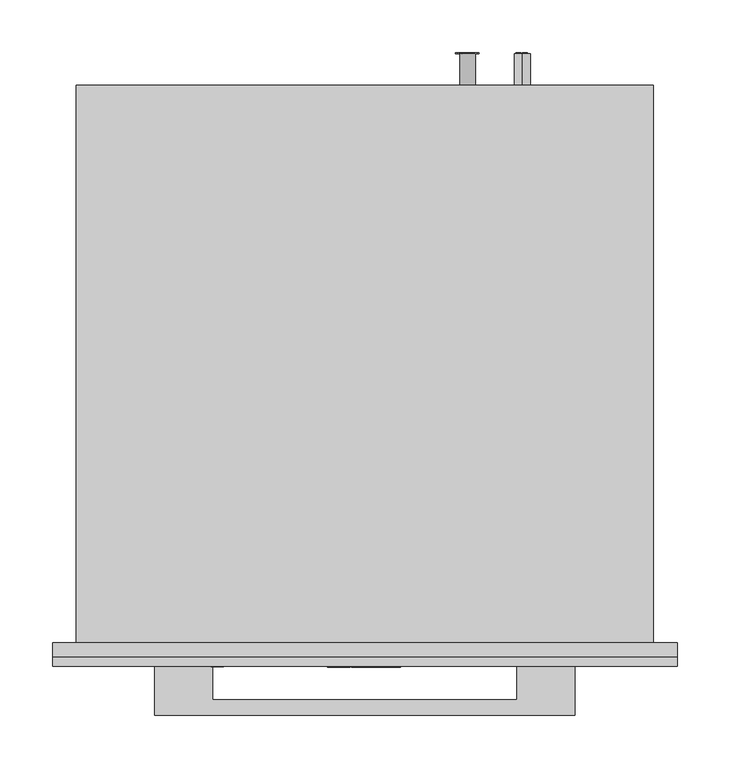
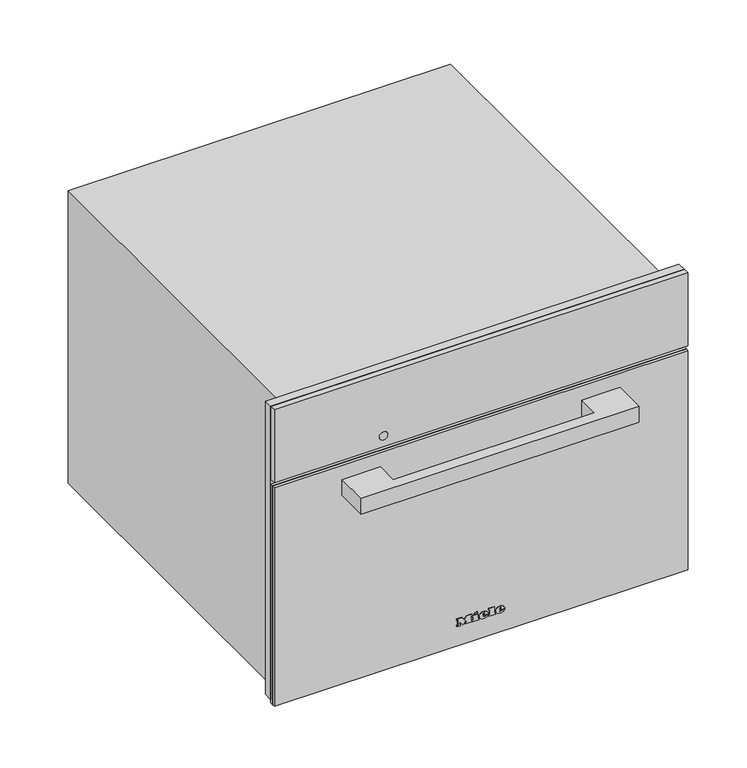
"""IFC4 building model written with IfcOpenShell, lengths in millimetres: proxy geometry, 11100870_F_DGM7645_BRWS : 23764514_F_11100870_DGM7645_BRWS."""

from ifc_helpers import new_model, si_unit, point, frame, frame_2d, origin, place, context, project, spatial, polyline, circle_curve, ellipse_curve, trimmed, segment, composite_curve, outline, extrude, faceted_brep, source, transform, mapped, element, save
from ifc_brep_helpers import plane_surface, cylinder_surface, revolved_surface, extruded_surface, advanced_brep


def specialty_equipment_d4a3625e(model_context):
    return source(origin(), model_context, "Body", "SolidModel", [
        extrude(outline(polyline([(455.0, 297.5), (455.0, -297.5), (9.0, -297.5), (9.0, -272.5), (344.0, -272.5), (344.0, 272.5), (9.0, 272.5), (9.0, 297.5), (455.0, 297.5)])), frame((0.0, -13.0, 0.0), z_axis=(0.0, 1.0, 0.0), x_axis=(0.0, 0.0, 1.0)), (0.0, 0.0, 1.0), 13.0),
        extrude(outline(polyline([(378.0, 95.9217896), (378.0, 97.4267862), (388.0435673, 100.1942402), (388.0435673, 98.9014806), (379.4295103, 96.7797951), (388.0470645, 94.3087512), (388.0470645, 92.4373937), (379.4121052, 89.9191482), (388.0472266, 87.8443938), (388.0472266, 86.5376524), (378.0, 89.2769667), (378.0, 90.6257455), (386.8347238, 93.3884733), (378.0, 95.9217896)])), frame((0.0, 561.0, 0.0), z_axis=(0.0, 1.0, 0.0), x_axis=(0.0, 0.0, 1.0)), (0.0, 0.0, 1.0), 1.0),
        extrude(outline(polyline([(388.0468463, 108.521488), (388.0468463, 107.2566067), (383.129594, 107.2566067), (388.0474898, 102.1074328), (388.0474898, 100.3597489), (383.9313111, 104.6695027), (378.0, 100.1858157), (378.0, 101.7358731), (383.0700777, 105.5685235), (381.4282746, 107.2823622), (378.0, 107.2823622), (378.0, 108.521488), (388.0468463, 108.521488)])), frame((0.0, 561.0, 0.0), z_axis=(0.0, 1.0, 0.0), x_axis=(0.0, 0.0, 1.0)), (0.0, 0.0, 1.0), 1.0),
        advanced_brep(
        [(150.0, 561.0, 410.5), (150.0, 561.0, 395.5), (144.4098301, 561.0, 398.0), (148.5, 561.0, 398.0), (148.5, 561.0, 408.0), (147.4955303, 561.0, 408.0), (147.4955303, 561.0, 399.0), (144.0315043, 561.0, 399.0), (144.0315043, 561.0, 398.4582978), (155.0, 561.0, 398.0), (155.0, 561.0, 408.0), (150.0, 561.0, 408.0), (150.0, 561.0, 407.0), (154.0, 561.0, 407.0), (154.0, 561.0, 403.5), (151.0, 561.0, 403.5), (151.0, 561.0, 402.5), (154.0, 561.0, 402.5), (154.0, 561.0, 399.0), (150.0, 561.0, 399.0), (150.0, 561.0, 398.0), (150.0, 531.0, 395.5), (150.0, 531.0, 410.5), (155.0, 562.0, 408.0), (155.0, 562.0, 398.0), (150.0, 562.0, 398.0), (150.0, 562.0, 399.0), (154.0, 562.0, 399.0), (154.0, 562.0, 402.5), (151.0, 562.0, 402.5), (151.0, 562.0, 403.5), (154.0, 562.0, 403.5), (154.0, 562.0, 407.0), (150.0, 562.0, 407.0), (150.0, 562.0, 408.0), (148.5, 562.0, 398.0), (144.0315043, 562.0, 398.0), (144.0315043, 562.0, 399.0), (147.4955303, 562.0, 399.0), (147.4955303, 562.0, 408.0), (148.5, 562.0, 408.0), (144.0315043, 561.0, 398.0)],
        [
            (0, 1, circle_curve(frame((150.0, 561.0, 403.0), z_axis=(0.0, 1.0, 0.0), x_axis=(0.0, 0.0, 1.0)), 7.5)),
            (1, 2, circle_curve(frame((150.0, 561.0, 403.0), z_axis=(0.0, 1.0, 0.0), x_axis=(0.0, 0.0, 1.0)), 7.5)),
            (2, 3),
            (3, 4),
            (4, 5),
            (5, 6),
            (6, 7),
            (7, 8),
            (8, 0, circle_curve(frame((150.0, 561.0, 403.0), z_axis=(0.0, 1.0, 0.0), x_axis=(0.0, 0.0, 1.0)), 7.5)),
            (9, 10),
            (10, 11),
            (11, 12),
            (12, 13),
            (13, 14),
            (14, 15),
            (15, 16),
            (16, 17),
            (17, 18),
            (18, 19),
            (19, 20),
            (20, 9),
            (21, 22, circle_curve(frame((150.0, 531.0, 403.0), z_axis=(0.0, -1.0, 0.0), x_axis=(0.0, 0.0, 1.0)), 7.5)),
            (22, 21, circle_curve(frame((150.0, 531.0, 403.0), z_axis=(0.0, -1.0, 0.0), x_axis=(0.0, 0.0, 1.0)), 7.5)),
            (0, 22),
            (21, 1),
            (8, 2, circle_curve(frame((150.0, 561.0, 403.0), z_axis=(0.0, -1.0, 0.0), x_axis=(0.0, 0.0, 1.0)), 7.5)),
            (23, 24),
            (24, 25),
            (25, 26),
            (26, 27),
            (27, 28),
            (28, 29),
            (29, 30),
            (30, 31),
            (31, 32),
            (32, 33),
            (33, 34),
            (34, 23),
            (35, 36),
            (36, 37),
            (37, 38),
            (38, 39),
            (39, 40),
            (40, 35),
            (8, 41),
            (41, 2),
            (23, 10),
            (9, 24),
            (20, 25),
            (19, 26),
            (18, 27),
            (17, 28),
            (16, 29),
            (15, 30),
            (14, 31),
            (13, 32),
            (12, 33),
            (11, 34),
            (35, 3),
            (41, 36),
            (7, 37),
            (6, 38),
            (5, 39),
            (4, 40),
        ],
        [
            plane_surface(frame((150.0, 561.0, 410.5), z_axis=(0.0, 1.0, 0.0), x_axis=(1.0, 0.0, 0.0))),
            plane_surface(frame((150.0, 531.0, 410.5), z_axis=(0.0, -1.0, 0.0), x_axis=(-1.0, 0.0, 0.0))),
            cylinder_surface(frame((150.0, 561.0, 403.0), z_axis=(0.0, -1.0, 0.0), x_axis=(0.0, 0.0, 1.0)), 7.5),
            plane_surface(frame((155.0, 562.0, 408.0), z_axis=(0.0, 1.0, 0.0), x_axis=(0.0, 0.0, -1.0))),
            plane_surface(frame((155.0, 561.0, 408.0), z_axis=(0.0, -1.0, 0.0), x_axis=(0.0, 0.0, 1.0))),
            plane_surface(frame((155.0, 562.0, 408.0), z_axis=(1.0, 0.0, 0.0), x_axis=(0.0, -1.0, 0.0))),
            plane_surface(frame((155.0, 562.0, 398.0), z_axis=(0.0, 0.0, -1.0), x_axis=(0.0, -1.0, 0.0))),
            plane_surface(frame((150.0, 562.0, 398.0), z_axis=(-1.0, 0.0, 0.0), x_axis=(0.0, -1.0, 0.0))),
            plane_surface(frame((150.0, 562.0, 399.0), z_axis=(0.0, 0.0, 1.0), x_axis=(0.0, -1.0, 0.0))),
            plane_surface(frame((154.0, 562.0, 399.0), z_axis=(-1.0, 0.0, 0.0), x_axis=(0.0, -1.0, 0.0))),
            plane_surface(frame((154.0, 562.0, 402.5), z_axis=(0.0, 0.0, -1.0), x_axis=(0.0, -1.0, 0.0))),
            plane_surface(frame((151.0, 562.0, 402.5), z_axis=(-1.0, 0.0, 0.0), x_axis=(0.0, -1.0, 0.0))),
            plane_surface(frame((151.0, 562.0, 403.5), z_axis=(0.0, 0.0, 1.0), x_axis=(0.0, -1.0, 0.0))),
            plane_surface(frame((154.0, 562.0, 403.5), z_axis=(-1.0, 0.0, 0.0), x_axis=(0.0, -1.0, 0.0))),
            plane_surface(frame((154.0, 562.0, 407.0), z_axis=(0.0, 0.0, -1.0), x_axis=(0.0, -1.0, 0.0))),
            plane_surface(frame((150.0, 562.0, 407.0), z_axis=(-1.0, 0.0, 0.0), x_axis=(0.0, -1.0, 0.0))),
            plane_surface(frame((150.0, 562.0, 408.0), z_axis=(0.0, 0.0, 1.0), x_axis=(0.0, -1.0, 0.0))),
            plane_surface(frame((148.5, 562.0, 398.0), z_axis=(0.0, 0.0, -1.0), x_axis=(0.0, -1.0, 0.0))),
            plane_surface(frame((144.0315043, 562.0, 398.0), z_axis=(-1.0, 0.0, 0.0), x_axis=(0.0, -1.0, 0.0))),
            plane_surface(frame((144.0315043, 562.0, 399.0), z_axis=(0.0, 0.0, 1.0), x_axis=(0.0, -1.0, 0.0))),
            plane_surface(frame((147.4955303, 562.0, 399.0), z_axis=(-1.0, 0.0, 0.0), x_axis=(0.0, -1.0, 0.0))),
            plane_surface(frame((147.4955303, 562.0, 408.0), z_axis=(0.0, 0.0, 1.0), x_axis=(0.0, -1.0, 0.0))),
            plane_surface(frame((148.5, 562.0, 408.0), z_axis=(1.0, 0.0, 0.0), x_axis=(0.0, -1.0, 0.0))),
        ],
        [
            (0, [[1, 2, 3, 4, 5, 6, 7, 8, 9], [10, 11, 12, 13, 14, 15, 16, 17, 18, 19, 20, 21]]),
            (1, [[22, 23]]),
            (2, [[-1, 24, -22, 25]]),
            (2, [[-23, -24, -9, 26, -2, -25]]),
            (3, [[27, 28, 29, 30, 31, 32, 33, 34, 35, 36, 37, 38]]),
            (3, [[39, 40, 41, 42, 43, 44]]),
            (4, [[45, 46, -26]]),
            (5, [[-27, 47, -10, 48]]),
            (6, [[-28, -48, -21, 49]]),
            (7, [[-29, -49, -20, 50]]),
            (8, [[-30, -50, -19, 51]]),
            (9, [[-31, -51, -18, 52]]),
            (10, [[-32, -52, -17, 53]]),
            (11, [[-33, -53, -16, 54]]),
            (12, [[-34, -54, -15, 55]]),
            (13, [[-35, -55, -14, 56]]),
            (14, [[-36, -56, -13, 57]]),
            (15, [[-37, -57, -12, 58]]),
            (16, [[-38, -58, -11, -47]]),
            (17, [[-39, 59, -3, -46, 60]]),
            (18, [[-40, -60, -45, -8, 61]]),
            (19, [[-41, -61, -7, 62]]),
            (20, [[-42, -62, -6, 63]]),
            (21, [[-43, -63, -5, 64]]),
            (22, [[-44, -64, -4, -59]]),
        ],
    ),
        extrude(outline(composite_curve([segment(trimmed(circle_curve(frame_2d((383.0, 98.0)), 7.5), [point((383.0, 105.5))], [point((383.0, 90.5))], False, "CARTESIAN"), True, "CONTINUOUS"), segment(trimmed(circle_curve(frame_2d((383.0, 98.0)), 7.5), [point((383.0, 90.5))], [point((383.0, 105.5))], False, "CARTESIAN"), True, "CONTINUOUS")], self_intersect=False)), frame((0.0, 531.0, 0.0), z_axis=(0.0, 1.0, 0.0), x_axis=(0.0, 0.0, 1.0)), (0.0, 0.0, 1.0), 30.0),
        faceted_brep([(275.0, 531.0, 445.0), (275.0, 531.0, 0.0), (-275.0, 531.0, 0.0), (-275.0, 531.0, 445.0), (275.0, 0.0, 445.0), (-275.0, 0.0, 445.0), (-275.0, 0.0, 0.0), (275.0, 0.0, 0.0), (-272.5, 0.0, 344.0), (272.5, 0.0, 344.0), (272.5, 0.0, 8.0), (-272.5, 0.0, 8.0), (272.5, 12.0, 344.0), (-272.5, 12.0, 344.0), (-272.5, 12.0, 8.0), (272.5, 12.0, 8.0), (161.0, 12.0, 286.0), (161.0, 12.0, 58.0), (-220.0, 12.0, 58.0), (-220.0, 12.0, 286.0), (161.0, 419.0, 286.0), (-220.0, 419.0, 286.0), (-220.0, 419.0, 58.0), (161.0, 419.0, 58.0)], [[[0, 1, 2, 3]], [[4, 5, 6, 7], [8, 9, 10, 11]], [[0, 3, 5, 4]], [[3, 2, 6, 5]], [[2, 1, 7, 6]], [[1, 0, 4, 7]], [[12, 13, 14, 15], [16, 17, 18, 19]], [[13, 12, 9, 8]], [[14, 13, 8, 11]], [[15, 14, 11, 10]], [[12, 15, 10, 9]], [[20, 21, 22, 23]], [[20, 23, 17, 16]], [[23, 22, 18, 17]], [[22, 21, 19, 18]], [[21, 20, 16, 19]]]),
        advanced_brep(
        [(26.2998, -23.0, 36.7018), (26.2998, -23.0, 37.8532), (33.9264, -23.0, 37.8532), (20.6568, -23.0, 37.8532), (23.7918, -23.0, 34.0), (33.7326, -23.0, 36.7018), (30.2898, -23.0, 36.7018), (27.5766, -23.0, 35.425), (26.2998, -23.0, 39.3124), (26.2998, -23.0, 40.555), (28.2492, -23.0, 40.555), (28.2492, -23.0, 39.3124), (26.2998, -22.0, 36.7018), (27.5766, -22.0, 35.425), (30.2898, -22.0, 36.7018), (33.7326, -22.0, 36.7018), (23.7918, -22.0, 34.0), (20.6568, -22.0, 37.8532), (33.9264, -22.0, 37.8532), (26.2998, -22.0, 37.8532), (26.2998, -22.0, 39.3124), (28.2492, -22.0, 39.3124), (28.2492, -22.0, 40.555), (26.2998, -22.0, 40.555)],
        [
            (0, 1),
            (1, 2),
            (2, 3, ellipse_curve(frame((27.2916, -23.0, 37.8532), z_axis=(0.0, -1.0, 0.0), x_axis=(-1.0, 0.0, 0.0)), 6.6348, 5.4834)),
            (3, 4, circle_curve(frame((25.0686622, -23.0, 38.2408), z_axis=(0.0, -1.0, 0.0), x_axis=(0.0, 0.0, -1.0)), 4.4288556)),
            (4, 5, circle_curve(frame((27.1587808, -23.0, 41.2504), z_axis=(0.0, -1.0, 0.0), x_axis=(0.0, 0.0, -1.0)), 7.9940516)),
            (5, 6),
            (6, 7, circle_curve(frame((28.1338588, -23.0, 37.762), z_axis=(0.0, 1.0, 0.0), x_axis=(0.0, 0.0, -1.0)), 2.4025208)),
            (7, 0, circle_curve(frame((27.5766, -23.0, 36.7018), z_axis=(0.0, 1.0, 0.0), x_axis=(0.0, 0.0, -1.0)), 1.2768)),
            (8, 9),
            (9, 10, circle_curve(frame((27.2745, -23.0, 40.555), z_axis=(0.0, 1.0, 0.0), x_axis=(0.0, 0.0, -1.0)), 0.9747)),
            (10, 11),
            (11, 8),
            (12, 13, circle_curve(frame((27.5766, -22.0, 36.7018), z_axis=(0.0, -1.0, 0.0), x_axis=(0.0, 0.0, -1.0)), 1.2768)),
            (13, 14, circle_curve(frame((28.1338588, -22.0, 37.762), z_axis=(0.0, -1.0, 0.0), x_axis=(0.0, 0.0, -1.0)), 2.4025208)),
            (14, 15),
            (15, 16, circle_curve(frame((27.1587808, -22.0, 41.2504), z_axis=(0.0, 1.0, 0.0), x_axis=(0.0, 0.0, -1.0)), 7.9940516)),
            (16, 17, circle_curve(frame((25.0686622, -22.0, 38.2408), z_axis=(0.0, 1.0, 0.0), x_axis=(0.0, 0.0, -1.0)), 4.4288556)),
            (17, 18, ellipse_curve(frame((27.2916, -22.0, 37.8532), z_axis=(0.0, 1.0, 0.0), x_axis=(-1.0, 0.0, 0.0)), 6.6348, 5.4834)),
            (18, 19),
            (19, 12),
            (20, 21),
            (21, 22),
            (22, 23, circle_curve(frame((27.2745, -22.0, 40.555), z_axis=(0.0, -1.0, 0.0), x_axis=(0.0, 0.0, -1.0)), 0.9747)),
            (23, 20),
            (0, 12),
            (19, 1),
            (18, 2),
            (5, 15),
            (14, 6),
            (17, 3),
            (13, 7),
            (16, 4),
            (8, 20),
            (23, 9),
            (22, 10),
            (21, 11),
        ],
        [
            plane_surface(frame((26.2998, -23.0, 37.8532), z_axis=(0.0, -1.0, 0.0), x_axis=(0.0, 0.0, 1.0))),
            plane_surface(frame((26.2998, -22.0, 37.8532), z_axis=(0.0, 1.0, 0.0), x_axis=(0.0, 0.0, -1.0))),
            plane_surface(frame((26.2998, -23.0, 36.7018), z_axis=(1.0, 0.0, 0.0), x_axis=(0.0, 1.0, 0.0))),
            plane_surface(frame((26.2998, -23.0, 37.8532), z_axis=(0.0, 0.0, -1.0), x_axis=(0.0, 1.0, 0.0))),
            plane_surface(frame((33.7326, -23.0, 36.7018), z_axis=(0.0, 0.0, 1.0), x_axis=(0.0, 1.0, 0.0))),
            extruded_surface(trimmed(ellipse_curve(frame((27.2916, -21.0, 37.8532), z_axis=(0.0, -1.0, 0.0), x_axis=(-1.0, 0.0, 0.0)), 6.6348, 5.4834), [point((33.9264, -21.0, 37.8532))], [point((20.6568, -21.0, 37.8532))], True, "CARTESIAN"), (0.0, -1.0, 0.0), 1.0),
            revolved_surface(polyline([(28.1338588, -22.0, 35.3594792), (28.1338588, -23.0, 35.3594792)]), (28.1338588, -22.0, 37.762), (0.0, 1.0, 0.0)),
            revolved_surface(polyline([(27.5766, -22.0, 35.425), (27.5766, -23.0, 35.425)]), (27.5766, -22.0, 36.7018), (0.0, 1.0, 0.0)),
            cylinder_surface(frame((25.0686622, -22.0, 38.2408), z_axis=(0.0, -1.0, 0.0), x_axis=(0.0, 0.0, -1.0)), 4.4288556),
            cylinder_surface(frame((27.1587808, -22.0, 41.2504), z_axis=(0.0, -1.0, 0.0), x_axis=(0.0, 0.0, -1.0)), 7.9940516),
            plane_surface(frame((26.2998, -23.0, 39.3124), z_axis=(1.0, 0.0, 0.0), x_axis=(0.0, 1.0, 0.0))),
            revolved_surface(polyline([(27.2745, -22.0, 39.5803), (27.2745, -23.0, 39.5803)]), (27.2745, -22.0, 40.555), (0.0, 1.0, 0.0)),
            plane_surface(frame((28.2492, -23.0, 40.555), z_axis=(-1.0, 0.0, 0.0), x_axis=(0.0, 1.0, 0.0))),
            plane_surface(frame((28.2492, -23.0, 39.3124), z_axis=(0.0, 0.0, 1.0), x_axis=(0.0, 1.0, 0.0))),
        ],
        [
            (0, [[1, 2, 3, 4, 5, 6, 7, 8], [9, 10, 11, 12]]),
            (1, [[13, 14, 15, 16, 17, 18, 19, 20], [21, 22, 23, 24]]),
            (2, [[-1, 25, -20, 26]]),
            (3, [[-2, -26, -19, 27]]),
            (4, [[-6, 28, -15, 29]]),
            (5, [[-3, -27, -18, 30]]),
            (6, [[-7, -29, -14, 31]]),
            (7, [[-8, -31, -13, -25]]),
            (8, [[-4, -30, -17, 32]]),
            (9, [[-5, -32, -16, -28]]),
            (10, [[-9, 33, -24, 34]]),
            (11, [[-10, -34, -23, 35]]),
            (12, [[-11, -35, -22, 36]]),
            (13, [[-12, -36, -21, -33]]),
        ],
    ),
        advanced_brep(
        [(2.508, -23.0, 36.7018), (2.508, -23.0, 37.8532), (10.1346, -23.0, 37.8532), (-3.135, -23.0, 37.8532), (0.0, -23.0, 34.0), (9.9408, -23.0, 36.7018), (6.498, -23.0, 36.7018), (3.7848, -23.0, 35.425), (2.508, -23.0, 39.3124), (2.508, -23.0, 40.555), (4.4574, -23.0, 40.555), (4.4574, -23.0, 39.3124), (2.508, -22.0, 36.7018), (3.7848, -22.0, 35.425), (6.498, -22.0, 36.7018), (9.9408, -22.0, 36.7018), (0.0, -22.0, 34.0), (-3.135, -22.0, 37.8532), (10.1346, -22.0, 37.8532), (2.508, -22.0, 37.8532), (2.508, -22.0, 39.3124), (4.4574, -22.0, 39.3124), (4.4574, -22.0, 40.555), (2.508, -22.0, 40.555)],
        [
            (0, 1),
            (1, 2),
            (2, 3, ellipse_curve(frame((3.4998, -23.0, 37.8532), z_axis=(0.0, -1.0, 0.0), x_axis=(-1.0, 0.0, 0.0)), 6.6348, 5.4834)),
            (3, 4, circle_curve(frame((1.2768622, -23.0, 38.2408), z_axis=(0.0, -1.0, 0.0), x_axis=(0.0, 0.0, -1.0)), 4.4288556)),
            (4, 5, circle_curve(frame((3.3669808, -23.0, 41.2504), z_axis=(0.0, -1.0, 0.0), x_axis=(0.0, 0.0, -1.0)), 7.9940516)),
            (5, 6),
            (6, 7, circle_curve(frame((4.3420588, -23.0, 37.762), z_axis=(0.0, 1.0, 0.0), x_axis=(0.0, 0.0, -1.0)), 2.4025208)),
            (7, 0, circle_curve(frame((3.7848, -23.0, 36.7018), z_axis=(0.0, 1.0, 0.0), x_axis=(0.0, 0.0, -1.0)), 1.2768)),
            (8, 9),
            (9, 10, circle_curve(frame((3.4827, -23.0, 40.555), z_axis=(0.0, 1.0, 0.0), x_axis=(0.0, 0.0, -1.0)), 0.9747)),
            (10, 11),
            (11, 8),
            (12, 13, circle_curve(frame((3.7848, -22.0, 36.7018), z_axis=(0.0, -1.0, 0.0), x_axis=(0.0, 0.0, -1.0)), 1.2768)),
            (13, 14, circle_curve(frame((4.3420588, -22.0, 37.762), z_axis=(0.0, -1.0, 0.0), x_axis=(0.0, 0.0, -1.0)), 2.4025208)),
            (14, 15),
            (15, 16, circle_curve(frame((3.3669808, -22.0, 41.2504), z_axis=(0.0, 1.0, 0.0), x_axis=(0.0, 0.0, -1.0)), 7.9940516)),
            (16, 17, circle_curve(frame((1.2768622, -22.0, 38.2408), z_axis=(0.0, 1.0, 0.0), x_axis=(0.0, 0.0, -1.0)), 4.4288556)),
            (17, 18, ellipse_curve(frame((3.4998, -22.0, 37.8532), z_axis=(0.0, 1.0, 0.0), x_axis=(-1.0, 0.0, 0.0)), 6.6348, 5.4834)),
            (18, 19),
            (19, 12),
            (20, 21),
            (21, 22),
            (22, 23, circle_curve(frame((3.4827, -22.0, 40.555), z_axis=(0.0, -1.0, 0.0), x_axis=(0.0, 0.0, -1.0)), 0.9747)),
            (23, 20),
            (0, 12),
            (19, 1),
            (18, 2),
            (5, 15),
            (14, 6),
            (17, 3),
            (13, 7),
            (16, 4),
            (8, 20),
            (23, 9),
            (22, 10),
            (21, 11),
        ],
        [
            plane_surface(frame((2.508, -23.0, 37.8532), z_axis=(0.0, -1.0, 0.0), x_axis=(0.0, 0.0, 1.0))),
            plane_surface(frame((2.508, -22.0, 37.8532), z_axis=(0.0, 1.0, 0.0), x_axis=(0.0, 0.0, -1.0))),
            plane_surface(frame((2.508, -23.0, 36.7018), z_axis=(1.0, 0.0, 0.0), x_axis=(0.0, 1.0, 0.0))),
            plane_surface(frame((2.508, -23.0, 37.8532), z_axis=(0.0, 0.0, -1.0), x_axis=(0.0, 1.0, 0.0))),
            plane_surface(frame((9.9408, -23.0, 36.7018), z_axis=(0.0, 0.0, 1.0), x_axis=(0.0, 1.0, 0.0))),
            extruded_surface(trimmed(ellipse_curve(frame((3.4998, -21.0, 37.8532), z_axis=(0.0, -1.0, 0.0), x_axis=(-1.0, 0.0, 0.0)), 6.6348, 5.4834), [point((10.1346, -21.0, 37.8532))], [point((-3.135, -21.0, 37.8532))], True, "CARTESIAN"), (0.0, -1.0, 0.0), 1.0),
            revolved_surface(polyline([(4.3420588, -22.0, 35.3594792), (4.3420588, -23.0, 35.3594792)]), (4.3420588, -22.0, 37.762), (0.0, 1.0, 0.0)),
            revolved_surface(polyline([(3.7848, -22.0, 35.425), (3.7848, -23.0, 35.425)]), (3.7848, -22.0, 36.7018), (0.0, 1.0, 0.0)),
            cylinder_surface(frame((1.2768622, -22.0, 38.2408), z_axis=(0.0, -1.0, 0.0), x_axis=(0.0, 0.0, -1.0)), 4.4288556),
            cylinder_surface(frame((3.3669808, -22.0, 41.2504), z_axis=(0.0, -1.0, 0.0), x_axis=(0.0, 0.0, -1.0)), 7.9940516),
            plane_surface(frame((2.508, -23.0, 39.3124), z_axis=(1.0, 0.0, 0.0), x_axis=(0.0, 1.0, 0.0))),
            revolved_surface(polyline([(3.4827, -22.0, 39.5803), (3.4827, -23.0, 39.5803)]), (3.4827, -22.0, 40.555), (0.0, 1.0, 0.0)),
            plane_surface(frame((4.4574, -23.0, 40.555), z_axis=(-1.0, 0.0, 0.0), x_axis=(0.0, 1.0, 0.0))),
            plane_surface(frame((4.4574, -23.0, 39.3124), z_axis=(0.0, 0.0, 1.0), x_axis=(0.0, 1.0, 0.0))),
        ],
        [
            (0, [[1, 2, 3, 4, 5, 6, 7, 8], [9, 10, 11, 12]]),
            (1, [[13, 14, 15, 16, 17, 18, 19, 20], [21, 22, 23, 24]]),
            (2, [[-1, 25, -20, 26]]),
            (3, [[-2, -26, -19, 27]]),
            (4, [[-6, 28, -15, 29]]),
            (5, [[-3, -27, -18, 30]]),
            (6, [[-7, -29, -14, 31]]),
            (7, [[-8, -31, -13, -25]]),
            (8, [[-4, -30, -17, 32]]),
            (9, [[-5, -32, -16, -28]]),
            (10, [[-9, 33, -24, 34]]),
            (11, [[-10, -34, -23, 35]]),
            (12, [[-11, -35, -22, 36]]),
            (13, [[-12, -36, -21, -33]]),
        ],
    ),
        extrude(outline(polyline([(44.7274, -9.9522), (42.8806, -9.0858), (44.6818, -5.2212), (46.5286, -6.0762), (44.7274, -9.9522)])), frame((0.0, -23.0, 0.0), z_axis=(0.0, 1.0, 0.0), x_axis=(0.0, 0.0, 1.0)), (0.0, 0.0, 1.0), 1.0),
        extrude(outline(polyline([(42.6298, -12.768), (40.5892, -12.768), (40.5892, -11.4114), (35.9152, -11.4114), (35.9152, -12.768), (34.0, -12.768), (34.0, -3.7734), (35.9152, -3.7734), (35.9152, -5.0958), (42.6298, -5.0958), (42.6298, -12.768)])), frame((0.0, -23.0, 0.0), z_axis=(0.0, 1.0, 0.0), x_axis=(0.0, 0.0, 1.0)), (0.0, 0.0, 1.0), 1.0),
        extrude(outline(polyline([(43.5418, 10.773), (43.5418, 12.141), (35.9152, 12.141), (35.9152, 10.773), (34.0, 10.773), (34.0, 20.0184), (35.9152, 20.0184), (35.9152, 18.6162), (45.4, 18.6162), (45.4, 10.773), (43.5418, 10.773)])), frame((0.0, -23.0, 0.0), z_axis=(0.0, 1.0, 0.0), x_axis=(0.0, 0.0, 1.0)), (0.0, 0.0, 1.0), 1.0),
        extrude(outline(polyline([(43.5418, -35.4882), (43.5418, -34.1088), (35.9152, -34.1088), (35.9152, -35.4882), (34.0, -35.4882), (34.0, -30.4722), (35.9152, -30.4722), (35.9152, -31.8402), (40.7429247, -31.8402), (34.0, -26.7444), (40.9402223, -21.6258), (35.9152, -21.6258), (35.9152, -23.028), (34.0, -23.028), (34.0, -13.9308), (35.9152, -13.9308), (35.9152, -15.3786), (43.5418, -15.3786), (43.5418, -13.9308), (45.4, -13.9308), (45.4, -20.8734), (41.125, -24.2022), (45.4, -27.5424), (45.4, -35.4882), (43.5418, -35.4882)])), frame((0.0, -23.0, 0.0), z_axis=(0.0, 1.0, 0.0), x_axis=(0.0, 0.0, 1.0)), (0.0, 0.0, 1.0), 1.0),
        extrude(outline(polyline([(297.5, -22.0), (-297.5, -22.0), (-297.5, -13.0), (297.5, -13.0), (297.5, -22.0)])), frame((0.0, 0.0, 344.0), z_axis=(0.0, 0.0, 1.0), x_axis=(1.0, 0.0, 0.0)), (0.0, 0.0, 1.0), 111.0),
        extrude(outline(composite_curve([segment(trimmed(circle_curve(frame_2d((361.0, -140.5745637)), 6.0), [point((361.0, -146.5745637))], [point((361.0, -134.5745637))], False, "CARTESIAN"), True, "CONTINUOUS"), segment(trimmed(circle_curve(frame_2d((361.0, -140.5745637)), 6.0), [point((361.0, -134.5745637))], [point((361.0, -146.5745637))], False, "CARTESIAN"), True, "CONTINUOUS")], self_intersect=False)), frame((0.0, -22.5, 0.0), z_axis=(0.0, 1.0, 0.0), x_axis=(0.0, 0.0, 1.0)), (0.0, 0.0, 1.0), 1.0),
        extrude(outline(polyline([(-200.0, -69.0), (-200.0, -22.0), (-145.0, -22.0), (-145.0, -54.0), (145.0, -54.0), (145.0, -22.0), (200.0, -22.0), (200.0, -69.0), (-200.0, -69.0)])), frame((0.0, 0.0, 291.0), z_axis=(0.0, 0.0, 1.0), x_axis=(1.0, 0.0, 0.0)), (0.0, 0.0, 1.0), 24.0),
        extrude(outline(polyline([(297.5, -18.0), (-297.5, -18.0), (-297.5, -13.0), (297.5, -13.0), (297.5, -18.0)])), frame((0.0, 0.0, 4.0), z_axis=(0.0, 0.0, 1.0), x_axis=(1.0, 0.0, 0.0)), (0.0, 0.0, 1.0), 333.0),
        extrude(outline(polyline([(-297.5, -18.0), (297.5, -18.0), (297.5, -22.0), (-297.5, -22.0), (-297.5, -18.0)])), frame((0.0, 0.0, 4.0), z_axis=(0.0, 0.0, 1.0), x_axis=(1.0, 0.0, 0.0)), (0.0, 0.0, 1.0), 333.0),
    ])


if __name__ == "__main__":
    model = new_model("IFC4")
    model_context = context("Model", 3, world=origin())
    ifc_project = project(units=[si_unit("LENGTHUNIT", "METRE", prefix="MILLI")], contexts=[model_context])
    site = spatial("IfcSite", under=ifc_project)
    building = spatial("IfcBuilding", under=site)
    placement = place(None, origin())
    specialty_equipment_shape = specialty_equipment_d4a3625e(model_context)
    element("IfcBuildingElementProxy", 1, Name="11100870_F_DGM7645_BRWS : 23764514_F_11100870_DGM7645_BRWS", ObjectType="11100870_F_DGM7645_BRWS : 23764514_F_11100870_DGM7645_BRWS", at=placement, inside=building, context=model_context, shape_type="MappedRepresentation", body=[
        mapped(specialty_equipment_shape, transform((0.0, 0.0, 0.0), x_axis=(1.0, 0.0, 0.0), y_axis=(0.0, 1.0, 0.0), z_axis=(0.0, 0.0, 1.0))),
    ])
    save(model, "model.ifc")
